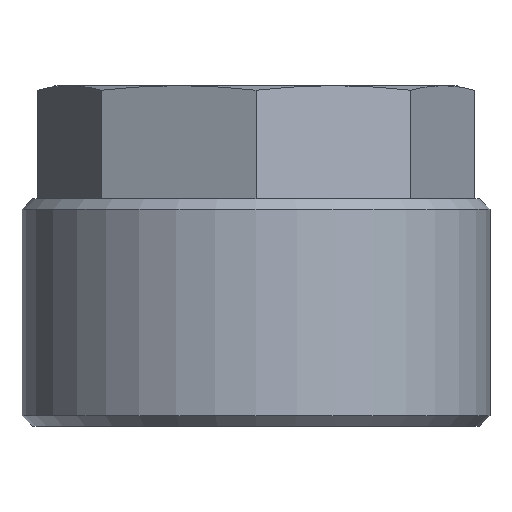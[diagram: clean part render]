
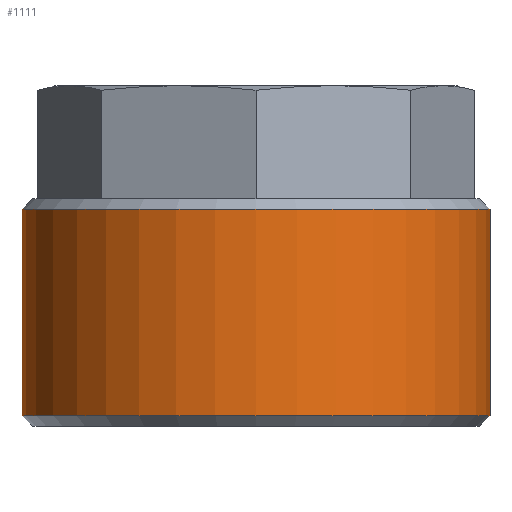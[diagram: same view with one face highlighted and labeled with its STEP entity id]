
A CAD part, front view. The second image highlights one B-rep face of the part: STEP entity #1111.
In plain terms, the highlighted cylindrical face has radius 11 mm (diameter 22 mm), a full revolution.
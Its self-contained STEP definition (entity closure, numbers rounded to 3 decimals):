
#584=CYLINDRICAL_SURFACE('',#1038,11.);
#604=ORIENTED_EDGE('',*,*,#759,.F.);
#605=ORIENTED_EDGE('',*,*,#758,.F.);
#704=CIRCLE('',#1037,11.);
#705=CIRCLE('',#1039,11.);
#723=VERTEX_POINT('',#1146);
#724=VERTEX_POINT('',#1149);
#758=EDGE_CURVE('',#723,#723,#704,.T.);
#759=EDGE_CURVE('',#724,#724,#705,.T.);
#811=EDGE_LOOP('',(#604));
#812=EDGE_LOOP('',(#605));
#851=FACE_BOUND('',#811,.T.);
#852=FACE_BOUND('',#812,.T.);
#895=DIRECTION('',(0.,-1.,0.));
#896=DIRECTION('',(0.,0.,11.));
#897=DIRECTION('',(0.,1.,0.));
#898=DIRECTION('',(1.,0.,0.));
#899=DIRECTION('',(0.,1.,0.));
#900=DIRECTION('',(0.,0.,11.));
#1037=AXIS2_PLACEMENT_3D('',#1147,#895,#896);
#1038=AXIS2_PLACEMENT_3D('',#1148,#897,#898);
#1039=AXIS2_PLACEMENT_3D('',#1150,#899,#900);
#1111=ADVANCED_FACE('',(#851,#852),#584,.T.);
#1146=CARTESIAN_POINT('',(26.989,15.095,11.));
#1147=CARTESIAN_POINT('',(26.989,15.095,0.));
#1148=CARTESIAN_POINT('',(26.989,15.095,0.));
#1149=CARTESIAN_POINT('',(26.989,24.795,11.));
#1150=CARTESIAN_POINT('',(26.989,24.795,0.));
